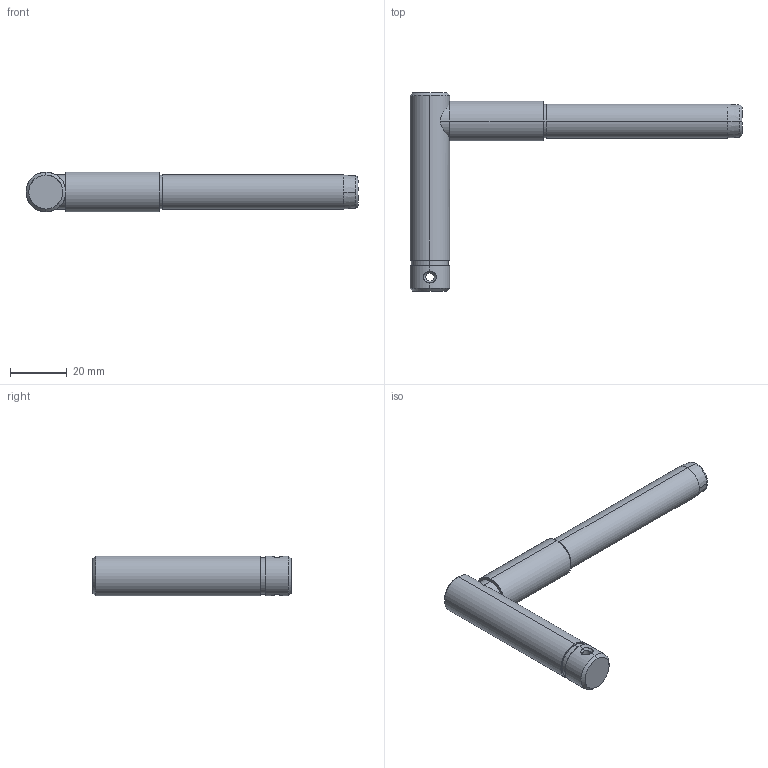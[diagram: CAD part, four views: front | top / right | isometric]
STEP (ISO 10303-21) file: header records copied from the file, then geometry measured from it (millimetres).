
FILE_DESCRIPTION (( 'STEP AP203' ), '1' );
FILE_NAME ('NS-LP-12.STEP', '2018-01-16T00:28:14', ( '' ), ( '' ), 'SwSTEP 2.0', 'SolidWorks 2013', '' );
FILE_SCHEMA (( 'CONFIG_CONTROL_DESIGN' ));
Length unit declared in the file: millimetre
Products named in the file (3): NS-LP-12_1; NS-LP-12_2; NS-LP-12
Assembly tree (2 placements, depth 2):
  NS-LP-12
    NS-LP-12_1
    NS-LP-12_2
Bounding box: 117 x 70 x 14 mm (x, y, z)
Surface area: 8225.1 mm2 (no closed solid volume)
Topology: 0 solids, 41 shells, 44 faces, 181 edges, 176 vertices
Faces by surface type: cylinder 18, plane 9, cone 9, bspline 8
Entity records: 6098 total; most frequent: CARTESIAN_POINT 4465, DIRECTION 245, ORIENTED_EDGE 182, EDGE_CURVE 179, VERTEX_POINT 176, AXIS2_PLACEMENT_3D 95, B_SPLINE_CURVE_WITH_KNOTS 70, VECTOR 55
